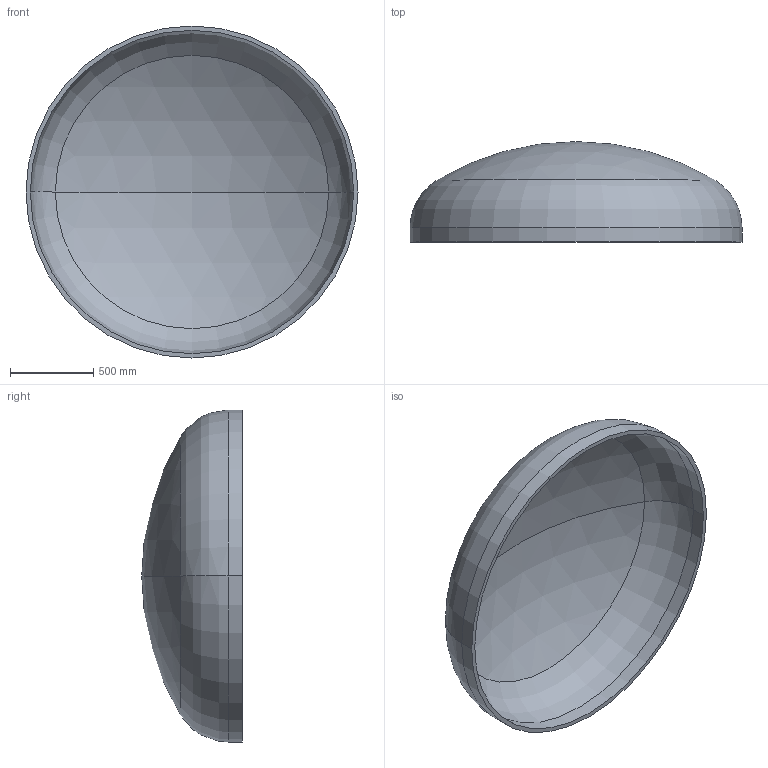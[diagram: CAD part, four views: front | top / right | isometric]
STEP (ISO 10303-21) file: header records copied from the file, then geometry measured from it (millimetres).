
FILE_DESCRIPTION (( 'STEP AP203' ), '1' );
FILE_NAME ('DIN 28013 Korbbogenform_-_Boden DIN 28013 - 2000 x 85 - I - s=26.step', '2016-07-01T13:44:18', ( '' ), ( '' ), 'SwSTEP 2.0', 'SolidWorks 2013', '' );
FILE_SCHEMA (( 'CONFIG_CONTROL_DESIGN' ));
Length unit declared in the file: millimetre
Products named in the file (1): DIN 28013 Korbbogenform_-_Boden DIN 28013 - 2000 x 85 - I - s=26
Bounding box: 2000 x 605.01 x 2000 mm (x, y, z)
Volume: 125047818.3 mm3; surface area: 9781714.5 mm2
Topology: 1 solids, 1 shells, 13 faces, 24 edges, 14 vertices
Faces by surface type: torus 4, cylinder 4, sphere 4, plane 1
Entity records: 407 total; most frequent: DIRECTION 72, CARTESIAN_POINT 52, ORIENTED_EDGE 48, AXIS2_PLACEMENT_3D 34, EDGE_CURVE 24, CIRCLE 20, VERTEX_POINT 14, EDGE_LOOP 14
